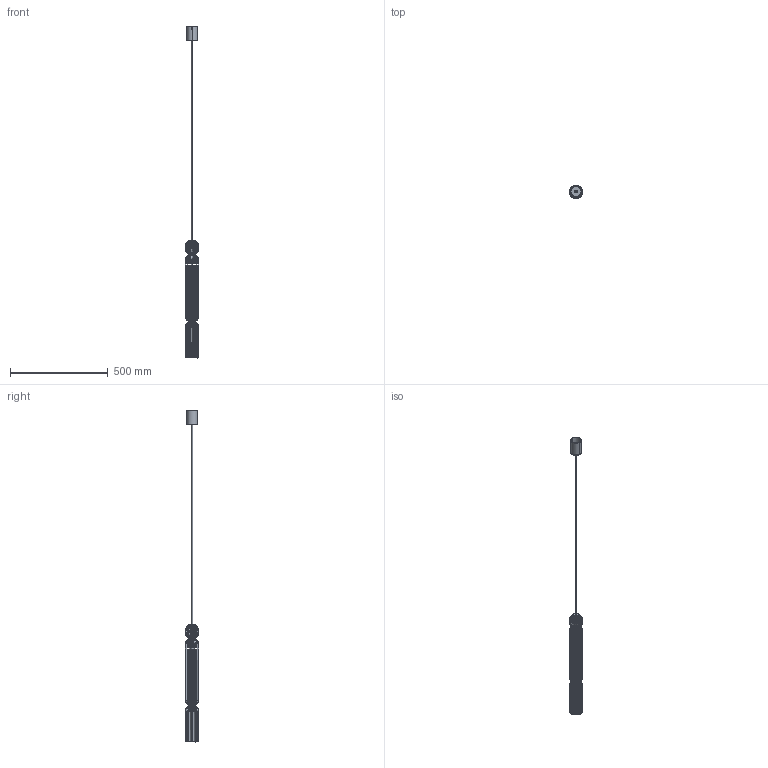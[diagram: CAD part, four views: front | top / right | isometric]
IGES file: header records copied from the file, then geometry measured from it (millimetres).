
Start section: SolidWorks IGES file using analytic representation for surfaces
Global section: file name: C:\Users\anna.bielnik\Desktop\singles a.IGS; native system: SolidWorks 2024; preprocessor: SolidWorks 2024; author: anna.bielnik; date: 251205.102855; units: millimetre
Bounding box: 68 x 67.63 x 1700 mm (x, y, z)
Surface area: 277956.9 mm2 (no closed solid volume)
Topology: 0 solids, 0 shells, 1276 faces, 17340 edges, 17340 vertices
Faces by surface type: bspline 645, revolution 631
